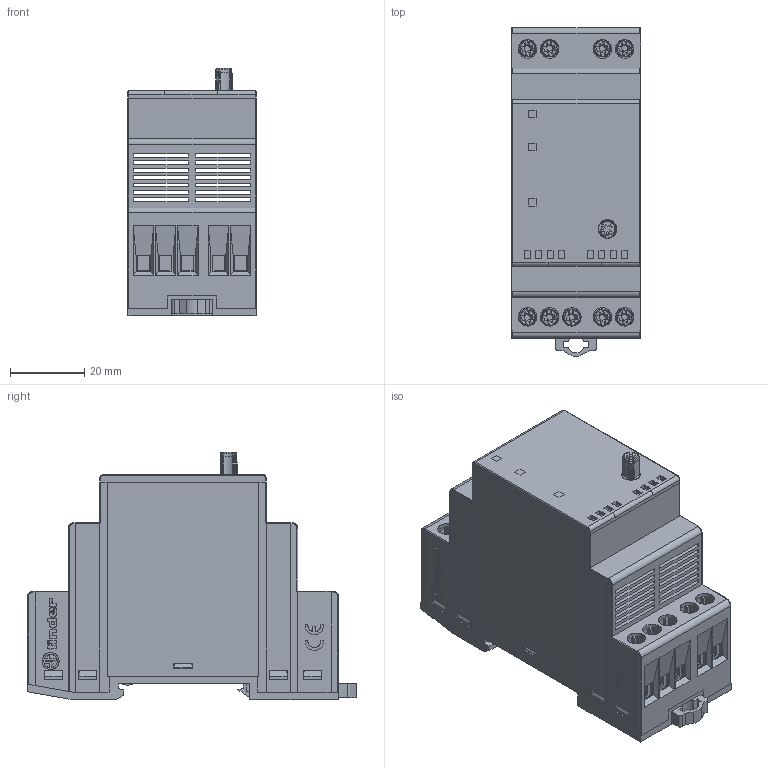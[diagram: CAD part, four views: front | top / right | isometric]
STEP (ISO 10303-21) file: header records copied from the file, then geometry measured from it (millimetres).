
FILE_DESCRIPTION(('STEP AP214'),'2;1');
FILE_NAME('19_42---catalogo_OK.stp','2011-04-22T10:24:16',(''),(''),'2007.1.106','THINKDESIGN','');
FILE_SCHEMA(('AUTOMOTIVE_DESIGN'));
Products named in the file (1): None
Bounding box: 35 x 88.85 x 66.8 mm (x, y, z)
Surface area: 28813.6 mm2 (no closed solid volume)
Topology: 0 solids, 0 shells, 1738 faces, 10733 edges, 10690 vertices
Faces by surface type: plane 1398, bspline 222, cylinder 118
Full cylindrical faces by diameter (mm): 3 x11, 5 x11
Entity records: 110464 total; most frequent: CARTESIAN_POINT 35713, DIRECTION 12646, COMPOSITE_CURVE_SEGMENT 10723, TRIMMED_CURVE 9302, VECTOR 9070, LINE 9070, AXIS2_PLACEMENT_3D 1788, OUTER_BOUNDARY_CURVE 1738
